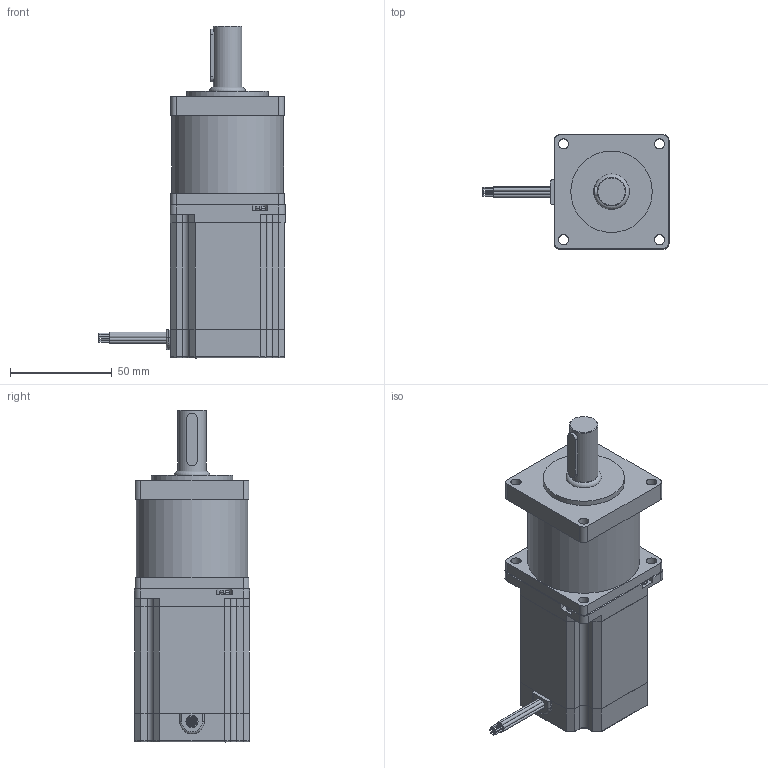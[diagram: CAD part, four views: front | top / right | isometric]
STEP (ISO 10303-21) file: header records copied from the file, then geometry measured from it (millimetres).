
FILE_DESCRIPTION(/* description */ (''),/* implementation_level */ '2;1');
FILE_NAME(/* name */ '\\JOINapp01\Profiles\martins\Desktop\MOTO REDUTORES MP\KTC-HT23-400-R10.step',/* time_stamp */ '2018-03-29T16:59:42-03:00',/* author */ ('martins'),/* organization */ (''),/* preprocessor_version */ 'ST-DEVELOPER v16.1',/* originating_system */ 'Autodesk Inventor 2016',/* authorisation */ '');
FILE_SCHEMA (('AUTOMOTIVE_DESIGN { 1 0 10303 214 3 1 1 }'));
Length unit declared in the file: millimetre
Products named in the file (1): KTC-HT23-400-R10
Bounding box: 91.4 x 56.5 x 163.1 mm (x, y, z)
Volume: 357225 mm3; surface area: 39179.3 mm2
Topology: 1 solids, 4 shells, 649 faces, 1662 edges, 1081 vertices
Faces by surface type: plane 397, bspline 106, cylinder 100, cone 24, torus 22
Full cylindrical faces by diameter (mm): 0.7 x8, 1.567 x1, 1.6 x8, 2.013 x7, 5 x16, 5.935 x1, 6.35 x1, 10.5 x1, 11 x1, 14 x1, 40 x1, 55 x1
Entity records: 20424 total; most frequent: CARTESIAN_POINT 5319, ORIENTED_EDGE 3168, DIRECTION 2672, EDGE_CURVE 1584, LINE 1092, VECTOR 1092, VERTEX_POINT 1067, EDGE_LOOP 791
